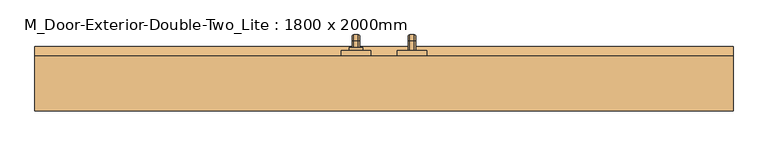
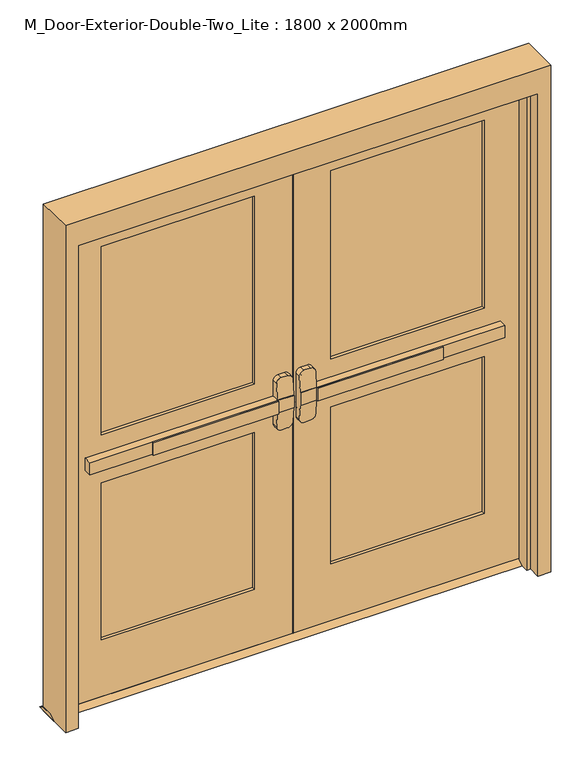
"""IFC4 building model written with IfcOpenShell, lengths in millimetres: door geometry, M_Door-Exterior-Double-Two_Lite : 1800 x 2000mm."""

from ifc_helpers import new_model, si_unit, point, frame, frame_2d, origin, place, context, project, spatial, polyline, circle_curve, ellipse_curve, trimmed, segment, composite_curve, outline, extrude, faceted_brep, source, transform, mapped, element, save
from ifc_brep_helpers import plane_surface, cylinder_surface, revolved_surface, advanced_brep


def m_door_exterior_double_two_lite_1800_x_2000mm_59306b6d(model_context):
    return source(origin(), model_context, "Body", "SolidModel", [
        extrude(outline(polyline([(-567.2, -1.75), (-567.2, 4.6), (-76.2, 4.6), (-76.2, -1.75), (-567.2, -1.75)])), frame((0.0, 0.0, 974.6), z_axis=(0.0, 0.0, 1.0), x_axis=(1.0, 0.0, 0.0)), (0.0, 0.0, 1.0), 50.8),
        advanced_brep(
        [(-12.7, 4.6, 1025.4), (-76.2, 4.6, 1025.4), (-812.7, 4.6, 1025.4), (-812.7, 4.6, 974.6), (-76.2, 4.6, 974.6), (-12.7, 4.6, 974.6), (-812.7, 36.35, 1025.4), (-76.2, 36.35, 1025.4), (-76.2, 36.35, 1088.9), (-57.15, 36.35, 1107.95), (-31.75, 36.35, 1107.95), (-12.7, 36.35, 1088.9), (-12.7, 36.35, 911.1), (-31.75, 36.35, 892.05), (-57.15, 36.35, 892.05), (-76.2, 36.35, 911.1), (-76.2, 36.35, 974.6), (-812.7, 36.35, 974.6), (-12.7, 7.7752467, 1025.4), (-76.2, 7.7752467, 1025.4), (-12.7, 7.7752467, 974.6), (-12.7, 12.7854269, 911.1), (-12.7, 12.7854269, 1088.9), (-76.2, 7.7752467, 974.6), (-76.2, 12.7854269, 1088.9), (-76.2, 12.7854269, 911.1), (-57.15, 14.288481, 1107.95), (-31.75, 14.288481, 1107.95), (-31.75, 14.288481, 892.05), (-57.15, 14.288481, 892.05)],
        [
            (0, 1),
            (1, 2),
            (2, 3),
            (3, 4),
            (4, 5),
            (5, 0),
            (6, 7),
            (7, 8),
            (8, 9, circle_curve(frame((-57.15, 36.35, 1088.9), z_axis=(0.0, 1.0, 0.0), x_axis=(-1.0, 0.0, 0.0)), 19.05)),
            (9, 10),
            (10, 11, circle_curve(frame((-31.75, 36.35, 1088.9), z_axis=(0.0, 1.0, 0.0), x_axis=(-1.0, 0.0, 0.0)), 19.05)),
            (11, 12),
            (12, 13, circle_curve(frame((-31.75, 36.35, 911.1), z_axis=(0.0, 1.0, 0.0), x_axis=(-1.0, 0.0, 0.0)), 19.05)),
            (13, 14),
            (14, 15, circle_curve(frame((-57.15, 36.35, 911.1), z_axis=(0.0, 1.0, 0.0), x_axis=(-1.0, 0.0, 0.0)), 19.05)),
            (15, 16),
            (16, 17),
            (17, 6),
            (0, 18),
            (18, 19),
            (19, 7),
            (6, 2),
            (5, 20),
            (20, 21),
            (21, 12),
            (11, 22),
            (22, 18),
            (16, 23),
            (23, 20),
            (3, 17),
            (19, 24),
            (24, 8),
            (15, 25),
            (25, 23),
            (9, 26),
            (26, 27),
            (27, 10),
            (13, 28),
            (28, 29),
            (29, 14),
            (29, 25, ellipse_curve(frame((-57.15, 12.7854269, 911.1), z_axis=(0.0, 0.9969018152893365, 0.07865602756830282), x_axis=(0.0, -0.07865602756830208, 0.9969018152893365)), 19.1092038, 19.05)),
            (24, 26, ellipse_curve(frame((-57.15, 12.7854269, 1088.9), z_axis=(0.0, 0.9969018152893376, -0.07865602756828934), x_axis=(0.0, -0.078656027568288, -0.9969018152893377)), 19.1092038, 19.05)),
            (27, 22, ellipse_curve(frame((-31.75, 12.7854269, 1088.9), z_axis=(0.0, 0.9969018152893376, -0.07865602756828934), x_axis=(0.0, -0.078656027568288, -0.9969018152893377)), 19.1092038, 19.05)),
            (21, 28, ellipse_curve(frame((-31.75, 12.7854269, 911.1), z_axis=(0.0, 0.9969018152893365, 0.07865602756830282), x_axis=(0.0, -0.07865602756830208, 0.9969018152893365)), 19.1092038, 19.05)),
        ],
        [
            plane_surface(frame((-12.7, 4.6, 1025.4), z_axis=(0.0, -1.0, 0.0), x_axis=(1.0, 0.0, 0.0))),
            plane_surface(frame((-12.7, 36.35, 1025.4), z_axis=(0.0, 1.0, 0.0), x_axis=(-1.0, 0.0, 0.0))),
            plane_surface(frame((-812.7, 4.6, 1025.4), z_axis=(0.0, 0.0, 1.0), x_axis=(0.0, 1.0, 0.0))),
            plane_surface(frame((-12.7, 4.6, 1025.4), z_axis=(1.0, 0.0, 0.0), x_axis=(0.0, 1.0, 0.0))),
            plane_surface(frame((-12.7, 4.6, 974.6), z_axis=(0.0, 0.0, -1.0), x_axis=(0.0, 1.0, 0.0))),
            plane_surface(frame((-812.7, 4.6, 974.6), z_axis=(-1.0, 0.0, 0.0), x_axis=(0.0, 1.0, 0.0))),
            plane_surface(frame((-76.2, 7.7752467, 911.1), z_axis=(-1.0, 0.0, 0.0), x_axis=(0.0, 1.0, 0.0))),
            plane_surface(frame((-57.15, 7.7752467, 1107.95), z_axis=(0.0, 0.0, 1.0), x_axis=(0.0, 1.0, 0.0))),
            plane_surface(frame((-31.75, 7.7752467, 892.05), z_axis=(0.0, 0.0, -1.0), x_axis=(0.0, 1.0, 0.0))),
            cylinder_surface(frame((-57.15, 36.35, 911.1), z_axis=(0.0, -1.0, 0.0), x_axis=(-1.0, 0.0, 0.0)), 19.05),
            cylinder_surface(frame((-57.15, 36.35, 1088.9), z_axis=(0.0, -1.0, 0.0), x_axis=(-1.0, 0.0, 0.0)), 19.05),
            cylinder_surface(frame((-31.75, 36.35, 1088.9), z_axis=(0.0, -1.0, 0.0), x_axis=(-1.0, 0.0, 0.0)), 19.05),
            cylinder_surface(frame((-31.75, 36.35, 911.1), z_axis=(0.0, -1.0, 0.0), x_axis=(-1.0, 0.0, 0.0)), 19.05),
            plane_surface(frame((-76.2, 7.7752467, 1025.4), z_axis=(0.0, -0.9969018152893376, 0.07865602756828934), x_axis=(1.0, 0.0, 0.0))),
            plane_surface(frame((-76.2, 14.288481, 892.05), z_axis=(0.0, -0.9969018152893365, -0.07865602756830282), x_axis=(1.0, 0.0, 0.0))),
        ],
        [
            (0, [[1, 2, 3, 4, 5, 6]]),
            (1, [[7, 8, 9, 10, 11, 12, 13, 14, 15, 16, 17, 18]]),
            (2, [[-2, -1, 19, 20, 21, -7, 22]]),
            (3, [[23, 24, 25, -12, 26, 27, -19, -6]]),
            (4, [[-17, 28, 29, -23, -5, -4, 30]]),
            (5, [[-22, -18, -30, -3]]),
            (6, [[-21, 31, 32, -8]]),
            (6, [[33, 34, -28, -16]]),
            (7, [[35, 36, 37, -10]]),
            (8, [[38, 39, 40, -14]]),
            (9, [[-40, 41, -33, -15]]),
            (10, [[-32, 42, -35, -9]]),
            (11, [[-37, 43, -26, -11]]),
            (12, [[-25, 44, -38, -13]]),
            (13, [[-27, -43, -36, -42, -31, -20]]),
            (14, [[-29, -34, -41, -39, -44, -24]]),
        ],
    ),
        extrude(outline(polyline([(81.35, 15.0), (106.75, 0.0), (10.95, 0.0), (36.35, 15.0), (81.35, 15.0)])), frame((-950.0, 0.0, 0.0), z_axis=(1.0, 0.0, 0.0), x_axis=(0.0, 1.0, 0.0)), (0.0, 0.0, 1.0), 1900.0),
        extrude(outline(polyline([(567.2, -1.75), (76.2, -1.75), (76.2, 4.6), (567.2, 4.6), (567.2, -1.75)])), frame((0.0, 0.0, 974.6), z_axis=(0.0, 0.0, 1.0), x_axis=(1.0, 0.0, 0.0)), (0.0, 0.0, 1.0), 50.8),
        advanced_brep(
        [(12.7, 4.6, 1025.4), (12.7, 4.6, 974.6), (76.2, 4.6, 974.6), (812.7, 4.6, 974.6), (812.7, 4.6, 1025.4), (76.2, 4.6, 1025.4), (812.7, 36.35, 1025.4), (812.7, 36.35, 974.6), (76.2, 36.35, 974.6), (76.2, 36.35, 911.1), (57.15, 36.35, 892.05), (31.75, 36.35, 892.05), (12.7, 36.35, 911.1), (12.7, 36.35, 1088.9), (31.75, 36.35, 1107.95), (57.15, 36.35, 1107.95), (76.2, 36.35, 1088.9), (76.2, 36.35, 1025.4), (76.2, 7.7752467, 1025.4), (12.7, 7.7752467, 1025.4), (12.7, 12.7854269, 1088.9), (12.7, 12.7854269, 911.1), (12.7, 7.7752467, 974.6), (76.2, 7.7752467, 974.6), (76.2, 12.7854269, 911.1), (76.2, 12.7854269, 1088.9), (31.75, 14.288481, 1107.95), (57.15, 14.288481, 1107.95), (57.15, 14.288481, 892.05), (31.75, 14.288481, 892.05)],
        [
            (0, 1),
            (1, 2),
            (2, 3),
            (3, 4),
            (4, 5),
            (5, 0),
            (6, 7),
            (7, 8),
            (8, 9),
            (9, 10, circle_curve(frame((57.15, 36.35, 911.1), z_axis=(0.0, 1.0, 0.0), x_axis=(1.0, 0.0, 0.0)), 19.05)),
            (10, 11),
            (11, 12, circle_curve(frame((31.75, 36.35, 911.1), z_axis=(0.0, 1.0, 0.0), x_axis=(1.0, 0.0, 0.0)), 19.05)),
            (12, 13),
            (13, 14, circle_curve(frame((31.75, 36.35, 1088.9), z_axis=(0.0, 1.0, 0.0), x_axis=(1.0, 0.0, 0.0)), 19.05)),
            (14, 15),
            (15, 16, circle_curve(frame((57.15, 36.35, 1088.9), z_axis=(0.0, 1.0, 0.0), x_axis=(1.0, 0.0, 0.0)), 19.05)),
            (16, 17),
            (17, 6),
            (4, 6),
            (17, 18),
            (18, 19),
            (19, 0),
            (19, 20),
            (20, 13),
            (12, 21),
            (21, 22),
            (22, 1),
            (7, 3),
            (22, 23),
            (23, 8),
            (23, 24),
            (24, 9),
            (16, 25),
            (25, 18),
            (14, 26),
            (26, 27),
            (27, 15),
            (10, 28),
            (28, 29),
            (29, 11),
            (24, 28, ellipse_curve(frame((57.15, 12.7854269, 911.1), z_axis=(0.0, 0.9969018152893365, 0.07865602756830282), x_axis=(0.0, -0.07865602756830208, 0.9969018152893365)), 19.1092038, 19.05)),
            (27, 25, ellipse_curve(frame((57.15, 12.7854269, 1088.9), z_axis=(0.0, 0.9969018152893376, -0.07865602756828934), x_axis=(0.0, -0.078656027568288, -0.9969018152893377)), 19.1092038, 19.05)),
            (20, 26, ellipse_curve(frame((31.75, 12.7854269, 1088.9), z_axis=(0.0, 0.9969018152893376, -0.07865602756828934), x_axis=(0.0, -0.078656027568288, -0.9969018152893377)), 19.1092038, 19.05)),
            (29, 21, ellipse_curve(frame((31.75, 12.7854269, 911.1), z_axis=(0.0, 0.9969018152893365, 0.07865602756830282), x_axis=(0.0, -0.07865602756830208, 0.9969018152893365)), 19.1092038, 19.05)),
        ],
        [
            plane_surface(frame((12.7, 4.6, 1025.4), z_axis=(0.0, -1.0, 0.0), x_axis=(-1.0, 0.0, 0.0))),
            plane_surface(frame((12.7, 36.35, 1025.4), z_axis=(0.0, 1.0, 0.0), x_axis=(1.0, 0.0, 0.0))),
            plane_surface(frame((812.7, 4.6, 1025.4), z_axis=(0.0, 0.0, 1.0), x_axis=(0.0, 1.0, 0.0))),
            plane_surface(frame((12.7, 4.6, 1025.4), z_axis=(-1.0, 0.0, 0.0), x_axis=(0.0, 1.0, 0.0))),
            plane_surface(frame((12.7, 4.6, 974.6), z_axis=(0.0, 0.0, -1.0), x_axis=(0.0, 1.0, 0.0))),
            plane_surface(frame((812.7, 4.6, 974.6), z_axis=(1.0, 0.0, 0.0), x_axis=(0.0, 1.0, 0.0))),
            plane_surface(frame((76.2, 7.7752467, 911.1), z_axis=(1.0, 0.0, 0.0), x_axis=(0.0, 1.0, 0.0))),
            plane_surface(frame((57.15, 7.7752467, 1107.95), z_axis=(0.0, 0.0, 1.0), x_axis=(0.0, 1.0, 0.0))),
            plane_surface(frame((31.75, 7.7752467, 892.05), z_axis=(0.0, 0.0, -1.0), x_axis=(0.0, 1.0, 0.0))),
            cylinder_surface(frame((57.15, 36.35, 911.1), z_axis=(0.0, -1.0, 0.0), x_axis=(1.0, 0.0, 0.0)), 19.05),
            cylinder_surface(frame((57.15, 36.35, 1088.9), z_axis=(0.0, -1.0, 0.0), x_axis=(1.0, 0.0, 0.0)), 19.05),
            cylinder_surface(frame((31.75, 36.35, 1088.9), z_axis=(0.0, -1.0, 0.0), x_axis=(1.0, 0.0, 0.0)), 19.05),
            cylinder_surface(frame((31.75, 36.35, 911.1), z_axis=(0.0, -1.0, 0.0), x_axis=(1.0, 0.0, 0.0)), 19.05),
            plane_surface(frame((76.2, 7.7752467, 1025.4), z_axis=(0.0, -0.9969018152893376, 0.07865602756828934), x_axis=(-1.0, 0.0, 0.0))),
            plane_surface(frame((76.2, 14.288481, 892.05), z_axis=(0.0, -0.9969018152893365, -0.07865602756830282), x_axis=(-1.0, 0.0, 0.0))),
        ],
        [
            (0, [[1, 2, 3, 4, 5, 6]]),
            (1, [[7, 8, 9, 10, 11, 12, 13, 14, 15, 16, 17, 18]]),
            (2, [[19, -18, 20, 21, 22, -6, -5]]),
            (3, [[-1, -22, 23, 24, -13, 25, 26, 27]]),
            (4, [[28, -3, -2, -27, 29, 30, -8]]),
            (5, [[-4, -28, -7, -19]]),
            (6, [[-9, -30, 31, 32]]),
            (6, [[-17, 33, 34, -20]]),
            (7, [[-15, 35, 36, 37]]),
            (8, [[-11, 38, 39, 40]]),
            (9, [[-10, -32, 41, -38]]),
            (10, [[-16, -37, 42, -33]]),
            (11, [[-14, -24, 43, -35]]),
            (12, [[-12, -40, 44, -25]]),
            (13, [[-21, -34, -42, -36, -43, -23]]),
            (14, [[-26, -44, -39, -41, -31, -29]]),
        ],
    ),
        advanced_brep(
        [(66.2, 96.35, 1001.190625), (66.2, 96.35, 998.809375), (69.771875, 96.35, 995.2375), (82.6284594, 96.35, 995.2375), (86.2, 96.35, 998.8090406), (86.2, 96.35, 1001.190625), (82.628125, 96.35, 1004.7625), (69.771875, 96.35, 1004.7625), (66.2, 96.35, 874.609375), (69.771875, 96.35, 871.0375), (82.628125, 96.35, 871.0375), (86.2, 96.35, 874.609375), (86.2, 96.35, 876.9909594), (82.6284594, 96.35, 880.5625), (69.771875, 96.35, 880.5625), (66.2, 96.35, 876.990625), (66.2, 121.75, 1001.190625), (66.2, 135.640625, 987.3), (66.2, 135.640625, 888.5), (66.2, 121.75, 874.609375), (66.2, 121.75, 876.990625), (66.2, 133.259375, 888.5), (66.2, 133.259375, 987.3), (66.2, 121.75, 998.809375), (69.771875, 121.75, 995.2375), (82.6284594, 121.75, 995.2375), (86.2, 121.75, 998.8090406), (86.2, 133.2590406, 987.3), (86.2, 133.2590406, 888.5), (86.2, 121.75, 876.9909594), (86.2, 121.75, 874.609375), (86.2, 135.640625, 888.5), (86.2, 135.640625, 987.3), (86.2, 121.75, 1001.190625), (82.628125, 121.75, 1004.7625), (69.771875, 121.75, 1004.7625), (69.771875, 129.6875, 987.3), (82.6284594, 129.6875, 987.3), (82.628125, 139.2125, 987.3), (69.771875, 139.2125, 987.3), (69.771875, 129.6875, 888.5), (82.6284594, 129.6875, 888.5), (82.628125, 139.2125, 888.5), (69.771875, 139.2125, 888.5), (69.771875, 121.75, 880.5625), (82.6284594, 121.75, 880.5625), (82.628125, 121.75, 871.0375), (69.771875, 121.75, 871.0375)],
        [
            (0, 1),
            (1, 2, circle_curve(frame((69.771875, 96.35, 998.809375), z_axis=(0.0, -1.0, 0.0), x_axis=(0.0, 0.0, 1.0)), 3.571875)),
            (2, 3),
            (3, 4, circle_curve(frame((82.6284594, 96.35, 998.8090406), z_axis=(0.0, -1.0, 0.0), x_axis=(0.0, 0.0, 1.0)), 3.5715406)),
            (4, 5),
            (5, 6, circle_curve(frame((82.628125, 96.35, 1001.190625), z_axis=(0.0, -1.0, 0.0), x_axis=(0.0, 0.0, 1.0)), 3.571875)),
            (6, 7),
            (7, 0, circle_curve(frame((69.771875, 96.35, 1001.190625), z_axis=(0.0, -1.0, 0.0), x_axis=(0.0, 0.0, 1.0)), 3.571875)),
            (8, 9, circle_curve(frame((69.771875, 96.35, 874.609375), z_axis=(0.0, -1.0, 0.0), x_axis=(0.0, 0.0, -1.0)), 3.571875)),
            (9, 10),
            (10, 11, circle_curve(frame((82.628125, 96.35, 874.609375), z_axis=(0.0, -1.0, 0.0), x_axis=(0.0, 0.0, -1.0)), 3.571875)),
            (11, 12),
            (12, 13, circle_curve(frame((82.6284594, 96.35, 876.9909594), z_axis=(0.0, -1.0, 0.0), x_axis=(0.0, 0.0, -1.0)), 3.5715406)),
            (13, 14),
            (14, 15, circle_curve(frame((69.771875, 96.35, 876.990625), z_axis=(0.0, -1.0, 0.0), x_axis=(0.0, 0.0, -1.0)), 3.571875)),
            (15, 8),
            (0, 16),
            (16, 17, circle_curve(frame((66.2, 121.75, 987.3), z_axis=(-1.0, 0.0, 0.0), x_axis=(0.0, 0.0, 1.0)), 13.890625)),
            (17, 18),
            (18, 19, circle_curve(frame((66.2, 121.75, 888.5), z_axis=(-1.0, 0.0, 0.0), x_axis=(0.0, 1.0, 0.0)), 13.890625)),
            (19, 8),
            (15, 20),
            (20, 21, circle_curve(frame((66.2, 121.75, 888.5), z_axis=(1.0, 0.0, 0.0), x_axis=(0.0, 1.0, 0.0)), 11.509375)),
            (21, 22),
            (22, 23, circle_curve(frame((66.2, 121.75, 987.3), z_axis=(1.0, 0.0, 0.0), x_axis=(0.0, 0.0, 1.0)), 11.509375)),
            (23, 1),
            (23, 24, circle_curve(frame((69.771875, 121.75, 998.809375), z_axis=(0.0, -1.0, 0.0), x_axis=(0.0, 0.0, 1.0)), 3.571875)),
            (24, 2),
            (24, 25),
            (25, 3),
            (25, 26, circle_curve(frame((82.6284594, 121.75, 998.8090406), z_axis=(0.0, -1.0, 0.0), x_axis=(0.0, 0.0, 1.0)), 3.5715406)),
            (26, 4),
            (26, 27, circle_curve(frame((86.2, 121.75, 987.3), z_axis=(-1.0, 0.0, 0.0), x_axis=(0.0, 0.0, 1.0)), 11.5090406)),
            (27, 28),
            (28, 29, circle_curve(frame((86.2, 121.75, 888.5), z_axis=(-1.0, 0.0, 0.0), x_axis=(0.0, 1.0, 0.0)), 11.5090406)),
            (29, 12),
            (11, 30),
            (30, 31, circle_curve(frame((86.2, 121.75, 888.5), z_axis=(1.0, 0.0, 0.0), x_axis=(0.0, 1.0, 0.0)), 13.890625)),
            (31, 32),
            (32, 33, circle_curve(frame((86.2, 121.75, 987.3), z_axis=(1.0, 0.0, 0.0), x_axis=(0.0, 0.0, 1.0)), 13.890625)),
            (33, 5),
            (33, 34, circle_curve(frame((82.628125, 121.75, 1001.190625), z_axis=(0.0, -1.0, 0.0), x_axis=(0.0, 0.0, 1.0)), 3.571875)),
            (34, 6),
            (34, 35),
            (35, 7),
            (35, 16, circle_curve(frame((69.771875, 121.75, 1001.190625), z_axis=(0.0, -1.0, 0.0), x_axis=(0.0, 0.0, 1.0)), 3.571875)),
            (36, 24, circle_curve(frame((69.771875, 121.75, 987.3), z_axis=(1.0, 0.0, 0.0), x_axis=(0.0, 0.0, 1.0)), 7.9375)),
            (22, 36, circle_curve(frame((69.771875, 133.259375, 987.3), z_axis=(0.0, 0.0, 1.0), x_axis=(0.0, 1.0, 0.0)), 3.571875)),
            (37, 25, circle_curve(frame((82.6284594, 121.75, 987.3), z_axis=(1.0, 0.0, 0.0), x_axis=(0.0, 0.0, 1.0)), 7.9375)),
            (36, 37),
            (37, 27, circle_curve(frame((82.6284594, 133.2590406, 987.3), z_axis=(0.0, 0.0, 1.0), x_axis=(0.0, 1.0, 0.0)), 3.5715406)),
            (38, 34, circle_curve(frame((82.628125, 121.75, 987.3), z_axis=(1.0, 0.0, 0.0), x_axis=(0.0, 0.0, 1.0)), 17.4625)),
            (32, 38, circle_curve(frame((82.628125, 135.640625, 987.3), z_axis=(0.0, 0.0, 1.0), x_axis=(0.0, 1.0, 0.0)), 3.571875)),
            (39, 35, circle_curve(frame((69.771875, 121.75, 987.3), z_axis=(1.0, 0.0, 0.0), x_axis=(0.0, 0.0, 1.0)), 17.4625)),
            (38, 39),
            (39, 17, circle_curve(frame((69.771875, 135.640625, 987.3), z_axis=(0.0, 0.0, 1.0), x_axis=(0.0, 1.0, 0.0)), 3.571875)),
            (21, 40, circle_curve(frame((69.771875, 133.259375, 888.5), z_axis=(0.0, 0.0, 1.0), x_axis=(0.0, 1.0, 0.0)), 3.571875)),
            (40, 36),
            (40, 41),
            (41, 37),
            (41, 28, circle_curve(frame((82.6284594, 133.2590406, 888.5), z_axis=(0.0, 0.0, 1.0), x_axis=(0.0, 1.0, 0.0)), 3.5715406)),
            (31, 42, circle_curve(frame((82.628125, 135.640625, 888.5), z_axis=(0.0, 0.0, 1.0), x_axis=(0.0, 1.0, 0.0)), 3.571875)),
            (42, 38),
            (42, 43),
            (43, 39),
            (43, 18, circle_curve(frame((69.771875, 135.640625, 888.5), z_axis=(0.0, 0.0, 1.0), x_axis=(0.0, 1.0, 0.0)), 3.571875)),
            (44, 40, circle_curve(frame((69.771875, 121.75, 888.5), z_axis=(1.0, 0.0, 0.0), x_axis=(0.0, 1.0, 0.0)), 7.9375)),
            (20, 44, circle_curve(frame((69.771875, 121.75, 876.990625), z_axis=(0.0, 1.0, 0.0), x_axis=(0.0, 0.0, -1.0)), 3.571875)),
            (45, 41, circle_curve(frame((82.6284594, 121.75, 888.5), z_axis=(1.0, 0.0, 0.0), x_axis=(0.0, 1.0, 0.0)), 7.9375)),
            (44, 45),
            (45, 29, circle_curve(frame((82.6284594, 121.75, 876.9909594), z_axis=(0.0, 1.0, 0.0), x_axis=(0.0, 0.0, -1.0)), 3.5715406)),
            (46, 42, circle_curve(frame((82.628125, 121.75, 888.5), z_axis=(1.0, 0.0, 0.0), x_axis=(0.0, 1.0, 0.0)), 17.4625)),
            (30, 46, circle_curve(frame((82.628125, 121.75, 874.609375), z_axis=(0.0, 1.0, 0.0), x_axis=(0.0, 0.0, -1.0)), 3.571875)),
            (47, 43, circle_curve(frame((69.771875, 121.75, 888.5), z_axis=(1.0, 0.0, 0.0), x_axis=(0.0, 1.0, 0.0)), 17.4625)),
            (46, 47),
            (47, 19, circle_curve(frame((69.771875, 121.75, 874.609375), z_axis=(0.0, 1.0, 0.0), x_axis=(0.0, 0.0, -1.0)), 3.571875)),
            (14, 44),
            (13, 45),
            (10, 46),
            (9, 47),
        ],
        [
            plane_surface(frame((76.2, 96.35, 1000.0), z_axis=(0.0, -1.0, 0.0), x_axis=(1.0, 0.0, 0.0))),
            plane_surface(frame((76.2, 96.35, 875.8), z_axis=(0.0, -1.0, 0.0), x_axis=(1.0, 0.0, 0.0))),
            plane_surface(frame((66.2, 96.35, 1001.190625), z_axis=(-1.0, 0.0, 0.0), x_axis=(0.0, 1.0, 0.0))),
            cylinder_surface(frame((69.771875, 96.35, 998.809375), z_axis=(0.0, -1.0, 0.0), x_axis=(0.0, 0.0, 1.0)), 3.571875),
            plane_surface(frame((69.771875, 96.35, 995.2375), z_axis=(0.0, 0.0, -1.0), x_axis=(0.0, 1.0, 0.0))),
            cylinder_surface(frame((82.6284594, 96.35, 998.8090406), z_axis=(0.0, -1.0, 0.0), x_axis=(0.0, 0.0, 1.0)), 3.5715406),
            plane_surface(frame((86.2, 96.35, 998.8090406), z_axis=(1.0, 0.0, 0.0), x_axis=(0.0, 1.0, 0.0))),
            cylinder_surface(frame((82.628125, 96.35, 1001.190625), z_axis=(0.0, -1.0, 0.0), x_axis=(0.0, 0.0, 1.0)), 3.571875),
            plane_surface(frame((82.628125, 96.35, 1004.7625), z_axis=(0.0, 0.0, 1.0), x_axis=(0.0, 1.0, 0.0))),
            cylinder_surface(frame((69.771875, 96.35, 1001.190625), z_axis=(0.0, -1.0, 0.0), x_axis=(0.0, 0.0, 1.0)), 3.571875),
            revolved_surface(trimmed(ellipse_curve(frame((69.771875, 121.75, 998.809375), z_axis=(0.0, -1.0, 0.0), x_axis=(0.0, 0.0, 1.0)), 3.571875, 3.571875), [point((66.2, 121.75, 998.809375))], [point((69.771875, 121.75, 995.2375))], True, "CARTESIAN"), (76.2, 121.75, 987.3), (-1.0, 0.0, 0.0)),
            revolved_surface(polyline([(69.771875, 121.75, 995.2375), (82.6284594, 121.75, 995.2375)]), (76.2, 121.75, 987.3), (-1.0, 0.0, 0.0)),
            revolved_surface(trimmed(ellipse_curve(frame((82.6284594, 121.75, 998.8090406), z_axis=(0.0, -1.0, 0.0), x_axis=(0.0, 0.0, 1.0)), 3.5715406, 3.5715406), [point((82.6284594, 121.75, 995.2375))], [point((86.2, 121.75, 998.8090406))], True, "CARTESIAN"), (76.2, 121.75, 987.3), (-1.0, 0.0, 0.0)),
            revolved_surface(trimmed(ellipse_curve(frame((82.628125, 121.75, 1001.190625), z_axis=(0.0, -1.0, 0.0), x_axis=(0.0, 0.0, 1.0)), 3.571875, 3.571875), [point((86.2, 121.75, 1001.190625))], [point((82.628125, 121.75, 1004.7625))], True, "CARTESIAN"), (76.2, 121.75, 987.3), (-1.0, 0.0, 0.0)),
            cylinder_surface(frame((76.2, 121.75, 987.3), z_axis=(-1.0, 0.0, 0.0), x_axis=(0.0, 0.0, 1.0)), 17.4625),
            revolved_surface(trimmed(ellipse_curve(frame((69.771875, 121.75, 1001.190625), z_axis=(0.0, -1.0, 0.0), x_axis=(0.0, 0.0, 1.0)), 3.571875, 3.571875), [point((69.771875, 121.75, 1004.7625))], [point((66.2, 121.75, 1001.190625))], True, "CARTESIAN"), (76.2, 121.75, 987.3), (-1.0, 0.0, 0.0)),
            cylinder_surface(frame((69.771875, 133.259375, 987.3), z_axis=(0.0, 0.0, 1.0), x_axis=(0.0, 1.0, 0.0)), 3.571875),
            plane_surface(frame((69.771875, 129.6875, 987.3), z_axis=(0.0, -1.0, 0.0), x_axis=(0.0, 0.0, -1.0))),
            cylinder_surface(frame((82.6284594, 133.2590406, 987.3), z_axis=(0.0, 0.0, 1.0), x_axis=(0.0, 1.0, 0.0)), 3.5715406),
            cylinder_surface(frame((82.628125, 135.640625, 987.3), z_axis=(0.0, 0.0, 1.0), x_axis=(0.0, 1.0, 0.0)), 3.571875),
            plane_surface(frame((82.628125, 139.2125, 987.3), z_axis=(0.0, 1.0, 0.0), x_axis=(0.0, 0.0, -1.0))),
            cylinder_surface(frame((69.771875, 135.640625, 987.3), z_axis=(0.0, 0.0, 1.0), x_axis=(0.0, 1.0, 0.0)), 3.571875),
            revolved_surface(trimmed(ellipse_curve(frame((69.771875, 133.259375, 888.5), z_axis=(0.0, 0.0, 1.0), x_axis=(0.0, 1.0, 0.0)), 3.571875, 3.571875), [point((66.2, 133.259375, 888.5))], [point((69.771875, 129.6875, 888.5))], True, "CARTESIAN"), (76.2, 121.75, 888.5), (-1.0, 0.0, 0.0)),
            revolved_surface(polyline([(69.771875, 129.6875, 888.5), (82.6284594, 129.6875, 888.5)]), (76.2, 121.75, 888.5), (-1.0, 0.0, 0.0)),
            revolved_surface(trimmed(ellipse_curve(frame((82.6284594, 133.2590406, 888.5), z_axis=(0.0, 0.0, 1.0), x_axis=(0.0, 1.0, 0.0)), 3.5715406, 3.5715406), [point((82.6284594, 129.6875, 888.5))], [point((86.2, 133.2590406, 888.5))], True, "CARTESIAN"), (76.2, 121.75, 888.5), (-1.0, 0.0, 0.0)),
            revolved_surface(trimmed(ellipse_curve(frame((82.628125, 135.640625, 888.5), z_axis=(0.0, 0.0, 1.0), x_axis=(0.0, 1.0, 0.0)), 3.571875, 3.571875), [point((86.2, 135.640625, 888.5))], [point((82.628125, 139.2125, 888.5))], True, "CARTESIAN"), (76.2, 121.75, 888.5), (-1.0, 0.0, 0.0)),
            cylinder_surface(frame((76.2, 121.75, 888.5), z_axis=(-1.0, 0.0, 0.0), x_axis=(0.0, 1.0, 0.0)), 17.4625),
            revolved_surface(trimmed(ellipse_curve(frame((69.771875, 135.640625, 888.5), z_axis=(0.0, 0.0, 1.0), x_axis=(0.0, 1.0, 0.0)), 3.571875, 3.571875), [point((69.771875, 139.2125, 888.5))], [point((66.2, 135.640625, 888.5))], True, "CARTESIAN"), (76.2, 121.75, 888.5), (-1.0, 0.0, 0.0)),
            cylinder_surface(frame((69.771875, 121.75, 876.990625), z_axis=(0.0, 1.0, 0.0), x_axis=(0.0, 0.0, -1.0)), 3.571875),
            plane_surface(frame((69.771875, 121.75, 880.5625), z_axis=(0.0, 0.0, 1.0), x_axis=(0.0, -1.0, 0.0))),
            cylinder_surface(frame((82.6284594, 121.75, 876.9909594), z_axis=(0.0, 1.0, 0.0), x_axis=(0.0, 0.0, -1.0)), 3.5715406),
            cylinder_surface(frame((82.628125, 121.75, 874.609375), z_axis=(0.0, 1.0, 0.0), x_axis=(0.0, 0.0, -1.0)), 3.571875),
            plane_surface(frame((82.628125, 121.75, 871.0375), z_axis=(0.0, 0.0, -1.0), x_axis=(0.0, -1.0, 0.0))),
            cylinder_surface(frame((69.771875, 121.75, 874.609375), z_axis=(0.0, 1.0, 0.0), x_axis=(0.0, 0.0, -1.0)), 3.571875),
        ],
        [
            (0, [[1, 2, 3, 4, 5, 6, 7, 8]]),
            (1, [[9, 10, 11, 12, 13, 14, 15, 16]]),
            (2, [[-1, 17, 18, 19, 20, 21, -16, 22, 23, 24, 25, 26]]),
            (3, [[-2, -26, 27, 28]]),
            (4, [[-3, -28, 29, 30]]),
            (5, [[-4, -30, 31, 32]]),
            (6, [[-5, -32, 33, 34, 35, 36, -12, 37, 38, 39, 40, 41]]),
            (7, [[-6, -41, 42, 43]]),
            (8, [[-7, -43, 44, 45]]),
            (9, [[-8, -45, 46, -17]]),
            (10, [[47, -27, -25, 48]]),
            (11, [[49, -29, -47, 50]]),
            (12, [[-33, -31, -49, 51]]),
            (13, [[52, -42, -40, 53]]),
            (14, [[54, -44, -52, 55]]),
            (15, [[-18, -46, -54, 56]]),
            (16, [[-48, -24, 57, 58]]),
            (17, [[-50, -58, 59, 60]]),
            (18, [[-51, -60, 61, -34]]),
            (19, [[-53, -39, 62, 63]]),
            (20, [[-55, -63, 64, 65]]),
            (21, [[-56, -65, 66, -19]]),
            (22, [[67, -57, -23, 68]]),
            (23, [[69, -59, -67, 70]]),
            (24, [[-35, -61, -69, 71]]),
            (25, [[72, -62, -38, 73]]),
            (26, [[74, -64, -72, 75]]),
            (27, [[-20, -66, -74, 76]]),
            (28, [[-68, -22, -15, 77]]),
            (29, [[-70, -77, -14, 78]]),
            (30, [[-71, -78, -13, -36]]),
            (31, [[-73, -37, -11, 79]]),
            (32, [[-75, -79, -10, 80]]),
            (33, [[-76, -80, -9, -21]]),
        ],
    ),
        extrude(outline(composite_curve([segment(trimmed(circle_curve(frame_2d((1094.2338574, 76.2)), 90.1286291), [point((1175.0, 116.2))], [point((1175.0, 36.2))], False, "CARTESIAN"), True, "CONTINUOUS"), segment(polyline([(1175.0, 36.2), (825.0, 36.2)]), True, "CONTINUOUS"), segment(trimmed(circle_curve(frame_2d((905.7661426, 76.2)), 90.1286291), [point((825.0, 36.2))], [point((825.0, 116.2))], False, "CARTESIAN"), True, "CONTINUOUS"), segment(polyline([(825.0, 116.2), (1175.0, 116.2)]), True, "CONTINUOUS")], self_intersect=False)), frame((0.0, 81.35, 0.0), z_axis=(0.0, 1.0, 0.0), x_axis=(0.0, 0.0, 1.0)), (0.0, 0.0, 1.0), 15.0),
        advanced_brep(
        [(-86.2, 96.35, 1001.190625), (-86.2, 96.35, 998.809375), (-82.628125, 96.35, 995.2375), (-69.7715406, 96.35, 995.2375), (-66.2, 96.35, 998.8090406), (-66.2, 96.35, 1001.190625), (-69.771875, 96.35, 1004.7625), (-82.628125, 96.35, 1004.7625), (-86.2, 96.35, 874.609375), (-82.628125, 96.35, 871.0375), (-69.771875, 96.35, 871.0375), (-66.2, 96.35, 874.609375), (-66.2, 96.35, 876.9909594), (-69.7715406, 96.35, 880.5625), (-82.628125, 96.35, 880.5625), (-86.2, 96.35, 876.990625), (-86.2, 121.75, 1001.190625), (-86.2, 135.640625, 987.3), (-86.2, 135.640625, 888.5), (-86.2, 121.75, 874.609375), (-86.2, 121.75, 876.990625), (-86.2, 133.259375, 888.5), (-86.2, 133.259375, 987.3), (-86.2, 121.75, 998.809375), (-82.628125, 121.75, 995.2375), (-69.7715406, 121.75, 995.2375), (-66.2, 121.75, 998.8090406), (-66.2, 133.2590406, 987.3), (-66.2, 133.2590406, 888.5), (-66.2, 121.75, 876.9909594), (-66.2, 121.75, 874.609375), (-66.2, 135.640625, 888.5), (-66.2, 135.640625, 987.3), (-66.2, 121.75, 1001.190625), (-69.771875, 121.75, 1004.7625), (-82.628125, 121.75, 1004.7625), (-82.628125, 129.6875, 987.3), (-69.7715406, 129.6875, 987.3), (-69.771875, 139.2125, 987.3), (-82.628125, 139.2125, 987.3), (-82.628125, 129.6875, 888.5), (-69.7715406, 129.6875, 888.5), (-69.771875, 139.2125, 888.5), (-82.628125, 139.2125, 888.5), (-82.628125, 121.75, 880.5625), (-69.7715406, 121.75, 880.5625), (-69.771875, 121.75, 871.0375), (-82.628125, 121.75, 871.0375)],
        [
            (0, 1),
            (1, 2, circle_curve(frame((-82.628125, 96.35, 998.809375), z_axis=(0.0, -1.0, 0.0), x_axis=(0.0, 0.0, 1.0)), 3.571875)),
            (2, 3),
            (3, 4, circle_curve(frame((-69.7715406, 96.35, 998.8090406), z_axis=(0.0, -1.0, 0.0), x_axis=(0.0, 0.0, 1.0)), 3.5715406)),
            (4, 5),
            (5, 6, circle_curve(frame((-69.771875, 96.35, 1001.190625), z_axis=(0.0, -1.0, 0.0), x_axis=(0.0, 0.0, 1.0)), 3.571875)),
            (6, 7),
            (7, 0, circle_curve(frame((-82.628125, 96.35, 1001.190625), z_axis=(0.0, -1.0, 0.0), x_axis=(0.0, 0.0, 1.0)), 3.571875)),
            (8, 9, circle_curve(frame((-82.628125, 96.35, 874.609375), z_axis=(0.0, -1.0, 0.0), x_axis=(0.0, 0.0, -1.0)), 3.571875)),
            (9, 10),
            (10, 11, circle_curve(frame((-69.771875, 96.35, 874.609375), z_axis=(0.0, -1.0, 0.0), x_axis=(0.0, 0.0, -1.0)), 3.571875)),
            (11, 12),
            (12, 13, circle_curve(frame((-69.7715406, 96.35, 876.9909594), z_axis=(0.0, -1.0, 0.0), x_axis=(0.0, 0.0, -1.0)), 3.5715406)),
            (13, 14),
            (14, 15, circle_curve(frame((-82.628125, 96.35, 876.990625), z_axis=(0.0, -1.0, 0.0), x_axis=(0.0, 0.0, -1.0)), 3.571875)),
            (15, 8),
            (0, 16),
            (16, 17, circle_curve(frame((-86.2, 121.75, 987.3), z_axis=(-1.0, 0.0, 0.0), x_axis=(0.0, 0.0, 1.0)), 13.890625)),
            (17, 18),
            (18, 19, circle_curve(frame((-86.2, 121.75, 888.5), z_axis=(-1.0, 0.0, 0.0), x_axis=(0.0, 1.0, 0.0)), 13.890625)),
            (19, 8),
            (15, 20),
            (20, 21, circle_curve(frame((-86.2, 121.75, 888.5), z_axis=(1.0, 0.0, 0.0), x_axis=(0.0, 1.0, 0.0)), 11.509375)),
            (21, 22),
            (22, 23, circle_curve(frame((-86.2, 121.75, 987.3), z_axis=(1.0, 0.0, 0.0), x_axis=(0.0, 0.0, 1.0)), 11.509375)),
            (23, 1),
            (23, 24, circle_curve(frame((-82.628125, 121.75, 998.809375), z_axis=(0.0, -1.0, 0.0), x_axis=(0.0, 0.0, 1.0)), 3.571875)),
            (24, 2),
            (24, 25),
            (25, 3),
            (25, 26, circle_curve(frame((-69.7715406, 121.75, 998.8090406), z_axis=(0.0, -1.0, 0.0), x_axis=(0.0, 0.0, 1.0)), 3.5715406)),
            (26, 4),
            (26, 27, circle_curve(frame((-66.2, 121.75, 987.3), z_axis=(-1.0, 0.0, 0.0), x_axis=(0.0, 0.0, 1.0)), 11.5090406)),
            (27, 28),
            (28, 29, circle_curve(frame((-66.2, 121.75, 888.5), z_axis=(-1.0, 0.0, 0.0), x_axis=(0.0, 1.0, 0.0)), 11.5090406)),
            (29, 12),
            (11, 30),
            (30, 31, circle_curve(frame((-66.2, 121.75, 888.5), z_axis=(1.0, 0.0, 0.0), x_axis=(0.0, 1.0, 0.0)), 13.890625)),
            (31, 32),
            (32, 33, circle_curve(frame((-66.2, 121.75, 987.3), z_axis=(1.0, 0.0, 0.0), x_axis=(0.0, 0.0, 1.0)), 13.890625)),
            (33, 5),
            (33, 34, circle_curve(frame((-69.771875, 121.75, 1001.190625), z_axis=(0.0, -1.0, 0.0), x_axis=(0.0, 0.0, 1.0)), 3.571875)),
            (34, 6),
            (34, 35),
            (35, 7),
            (35, 16, circle_curve(frame((-82.628125, 121.75, 1001.190625), z_axis=(0.0, -1.0, 0.0), x_axis=(0.0, 0.0, 1.0)), 3.571875)),
            (36, 24, circle_curve(frame((-82.628125, 121.75, 987.3), z_axis=(1.0, 0.0, 0.0), x_axis=(0.0, 0.0, 1.0)), 7.9375)),
            (22, 36, circle_curve(frame((-82.628125, 133.259375, 987.3), z_axis=(0.0, 0.0, 1.0), x_axis=(0.0, 1.0, 0.0)), 3.571875)),
            (37, 25, circle_curve(frame((-69.7715406, 121.75, 987.3), z_axis=(1.0, 0.0, 0.0), x_axis=(0.0, 0.0, 1.0)), 7.9375)),
            (36, 37),
            (37, 27, circle_curve(frame((-69.7715406, 133.2590406, 987.3), z_axis=(0.0, 0.0, 1.0), x_axis=(0.0, 1.0, 0.0)), 3.5715406)),
            (38, 34, circle_curve(frame((-69.771875, 121.75, 987.3), z_axis=(1.0, 0.0, 0.0), x_axis=(0.0, 0.0, 1.0)), 17.4625)),
            (32, 38, circle_curve(frame((-69.771875, 135.640625, 987.3), z_axis=(0.0, 0.0, 1.0), x_axis=(0.0, 1.0, 0.0)), 3.571875)),
            (39, 35, circle_curve(frame((-82.628125, 121.75, 987.3), z_axis=(1.0, 0.0, 0.0), x_axis=(0.0, 0.0, 1.0)), 17.4625)),
            (38, 39),
            (39, 17, circle_curve(frame((-82.628125, 135.640625, 987.3), z_axis=(0.0, 0.0, 1.0), x_axis=(0.0, 1.0, 0.0)), 3.571875)),
            (21, 40, circle_curve(frame((-82.628125, 133.259375, 888.5), z_axis=(0.0, 0.0, 1.0), x_axis=(0.0, 1.0, 0.0)), 3.571875)),
            (40, 36),
            (40, 41),
            (41, 37),
            (41, 28, circle_curve(frame((-69.7715406, 133.2590406, 888.5), z_axis=(0.0, 0.0, 1.0), x_axis=(0.0, 1.0, 0.0)), 3.5715406)),
            (31, 42, circle_curve(frame((-69.771875, 135.640625, 888.5), z_axis=(0.0, 0.0, 1.0), x_axis=(0.0, 1.0, 0.0)), 3.571875)),
            (42, 38),
            (42, 43),
            (43, 39),
            (43, 18, circle_curve(frame((-82.628125, 135.640625, 888.5), z_axis=(0.0, 0.0, 1.0), x_axis=(0.0, 1.0, 0.0)), 3.571875)),
            (44, 40, circle_curve(frame((-82.628125, 121.75, 888.5), z_axis=(1.0, 0.0, 0.0), x_axis=(0.0, 1.0, 0.0)), 7.9375)),
            (20, 44, circle_curve(frame((-82.628125, 121.75, 876.990625), z_axis=(0.0, 1.0, 0.0), x_axis=(0.0, 0.0, -1.0)), 3.571875)),
            (45, 41, circle_curve(frame((-69.7715406, 121.75, 888.5), z_axis=(1.0, 0.0, 0.0), x_axis=(0.0, 1.0, 0.0)), 7.9375)),
            (44, 45),
            (45, 29, circle_curve(frame((-69.7715406, 121.75, 876.9909594), z_axis=(0.0, 1.0, 0.0), x_axis=(0.0, 0.0, -1.0)), 3.5715406)),
            (46, 42, circle_curve(frame((-69.771875, 121.75, 888.5), z_axis=(1.0, 0.0, 0.0), x_axis=(0.0, 1.0, 0.0)), 17.4625)),
            (30, 46, circle_curve(frame((-69.771875, 121.75, 874.609375), z_axis=(0.0, 1.0, 0.0), x_axis=(0.0, 0.0, -1.0)), 3.571875)),
            (47, 43, circle_curve(frame((-82.628125, 121.75, 888.5), z_axis=(1.0, 0.0, 0.0), x_axis=(0.0, 1.0, 0.0)), 17.4625)),
            (46, 47),
            (47, 19, circle_curve(frame((-82.628125, 121.75, 874.609375), z_axis=(0.0, 1.0, 0.0), x_axis=(0.0, 0.0, -1.0)), 3.571875)),
            (14, 44),
            (13, 45),
            (10, 46),
            (9, 47),
        ],
        [
            plane_surface(frame((-76.2, 96.35, 1000.0), z_axis=(0.0, -1.0, 0.0), x_axis=(1.0, 0.0, 0.0))),
            plane_surface(frame((-76.2, 96.35, 875.8), z_axis=(0.0, -1.0, 0.0), x_axis=(1.0, 0.0, 0.0))),
            plane_surface(frame((-86.2, 96.35, 1001.190625), z_axis=(-1.0, 0.0, 0.0), x_axis=(0.0, 1.0, 0.0))),
            cylinder_surface(frame((-82.628125, 96.35, 998.809375), z_axis=(0.0, -1.0, 0.0), x_axis=(0.0, 0.0, 1.0)), 3.571875),
            plane_surface(frame((-82.628125, 96.35, 995.2375), z_axis=(0.0, 0.0, -1.0), x_axis=(0.0, 1.0, 0.0))),
            cylinder_surface(frame((-69.7715406, 96.35, 998.8090406), z_axis=(0.0, -1.0, 0.0), x_axis=(0.0, 0.0, 1.0)), 3.5715406),
            plane_surface(frame((-66.2, 96.35, 998.8090406), z_axis=(1.0, 0.0, 0.0), x_axis=(0.0, 1.0, 0.0))),
            cylinder_surface(frame((-69.771875, 96.35, 1001.190625), z_axis=(0.0, -1.0, 0.0), x_axis=(0.0, 0.0, 1.0)), 3.571875),
            plane_surface(frame((-69.771875, 96.35, 1004.7625), z_axis=(0.0, 0.0, 1.0), x_axis=(0.0, 1.0, 0.0))),
            cylinder_surface(frame((-82.628125, 96.35, 1001.190625), z_axis=(0.0, -1.0, 0.0), x_axis=(0.0, 0.0, 1.0)), 3.571875),
            revolved_surface(trimmed(ellipse_curve(frame((-82.628125, 121.75, 998.809375), z_axis=(0.0, -1.0, 0.0), x_axis=(0.0, 0.0, 1.0)), 3.571875, 3.571875), [point((-86.2, 121.75, 998.809375))], [point((-82.628125, 121.75, 995.2375))], True, "CARTESIAN"), (-76.2, 121.75, 987.3), (-1.0, 0.0, 0.0)),
            revolved_surface(polyline([(-82.628125, 121.75, 995.2375), (-69.7715406, 121.75, 995.2375)]), (-76.2, 121.75, 987.3), (-1.0, 0.0, 0.0)),
            revolved_surface(trimmed(ellipse_curve(frame((-69.7715406, 121.75, 998.8090406), z_axis=(0.0, -1.0, 0.0), x_axis=(0.0, 0.0, 1.0)), 3.5715406, 3.5715406), [point((-69.7715406, 121.75, 995.2375))], [point((-66.2, 121.75, 998.8090406))], True, "CARTESIAN"), (-76.2, 121.75, 987.3), (-1.0, 0.0, 0.0)),
            revolved_surface(trimmed(ellipse_curve(frame((-69.771875, 121.75, 1001.190625), z_axis=(0.0, -1.0, 0.0), x_axis=(0.0, 0.0, 1.0)), 3.571875, 3.571875), [point((-66.2, 121.75, 1001.190625))], [point((-69.771875, 121.75, 1004.7625))], True, "CARTESIAN"), (-76.2, 121.75, 987.3), (-1.0, 0.0, 0.0)),
            cylinder_surface(frame((-76.2, 121.75, 987.3), z_axis=(-1.0, 0.0, 0.0), x_axis=(0.0, 0.0, 1.0)), 17.4625),
            revolved_surface(trimmed(ellipse_curve(frame((-82.628125, 121.75, 1001.190625), z_axis=(0.0, -1.0, 0.0), x_axis=(0.0, 0.0, 1.0)), 3.571875, 3.571875), [point((-82.628125, 121.75, 1004.7625))], [point((-86.2, 121.75, 1001.190625))], True, "CARTESIAN"), (-76.2, 121.75, 987.3), (-1.0, 0.0, 0.0)),
            cylinder_surface(frame((-82.628125, 133.259375, 987.3), z_axis=(0.0, 0.0, 1.0), x_axis=(0.0, 1.0, 0.0)), 3.571875),
            plane_surface(frame((-82.628125, 129.6875, 987.3), z_axis=(0.0, -1.0, 0.0), x_axis=(0.0, 0.0, -1.0))),
            cylinder_surface(frame((-69.7715406, 133.2590406, 987.3), z_axis=(0.0, 0.0, 1.0), x_axis=(0.0, 1.0, 0.0)), 3.5715406),
            cylinder_surface(frame((-69.771875, 135.640625, 987.3), z_axis=(0.0, 0.0, 1.0), x_axis=(0.0, 1.0, 0.0)), 3.571875),
            plane_surface(frame((-69.771875, 139.2125, 987.3), z_axis=(0.0, 1.0, 0.0), x_axis=(0.0, 0.0, -1.0))),
            cylinder_surface(frame((-82.628125, 135.640625, 987.3), z_axis=(0.0, 0.0, 1.0), x_axis=(0.0, 1.0, 0.0)), 3.571875),
            revolved_surface(trimmed(ellipse_curve(frame((-82.628125, 133.259375, 888.5), z_axis=(0.0, 0.0, 1.0), x_axis=(0.0, 1.0, 0.0)), 3.571875, 3.571875), [point((-86.2, 133.259375, 888.5))], [point((-82.628125, 129.6875, 888.5))], True, "CARTESIAN"), (-76.2, 121.75, 888.5), (-1.0, 0.0, 0.0)),
            revolved_surface(polyline([(-82.628125, 129.6875, 888.5), (-69.7715406, 129.6875, 888.5)]), (-76.2, 121.75, 888.5), (-1.0, 0.0, 0.0)),
            revolved_surface(trimmed(ellipse_curve(frame((-69.7715406, 133.2590406, 888.5), z_axis=(0.0, 0.0, 1.0), x_axis=(0.0, 1.0, 0.0)), 3.5715406, 3.5715406), [point((-69.7715406, 129.6875, 888.5))], [point((-66.2, 133.2590406, 888.5))], True, "CARTESIAN"), (-76.2, 121.75, 888.5), (-1.0, 0.0, 0.0)),
            revolved_surface(trimmed(ellipse_curve(frame((-69.771875, 135.640625, 888.5), z_axis=(0.0, 0.0, 1.0), x_axis=(0.0, 1.0, 0.0)), 3.571875, 3.571875), [point((-66.2, 135.640625, 888.5))], [point((-69.771875, 139.2125, 888.5))], True, "CARTESIAN"), (-76.2, 121.75, 888.5), (-1.0, 0.0, 0.0)),
            cylinder_surface(frame((-76.2, 121.75, 888.5), z_axis=(-1.0, 0.0, 0.0), x_axis=(0.0, 1.0, 0.0)), 17.4625),
            revolved_surface(trimmed(ellipse_curve(frame((-82.628125, 135.640625, 888.5), z_axis=(0.0, 0.0, 1.0), x_axis=(0.0, 1.0, 0.0)), 3.571875, 3.571875), [point((-82.628125, 139.2125, 888.5))], [point((-86.2, 135.640625, 888.5))], True, "CARTESIAN"), (-76.2, 121.75, 888.5), (-1.0, 0.0, 0.0)),
            cylinder_surface(frame((-82.628125, 121.75, 876.990625), z_axis=(0.0, 1.0, 0.0), x_axis=(0.0, 0.0, -1.0)), 3.571875),
            plane_surface(frame((-82.628125, 121.75, 880.5625), z_axis=(0.0, 0.0, 1.0), x_axis=(0.0, -1.0, 0.0))),
            cylinder_surface(frame((-69.7715406, 121.75, 876.9909594), z_axis=(0.0, 1.0, 0.0), x_axis=(0.0, 0.0, -1.0)), 3.5715406),
            cylinder_surface(frame((-69.771875, 121.75, 874.609375), z_axis=(0.0, 1.0, 0.0), x_axis=(0.0, 0.0, -1.0)), 3.571875),
            plane_surface(frame((-69.771875, 121.75, 871.0375), z_axis=(0.0, 0.0, -1.0), x_axis=(0.0, -1.0, 0.0))),
            cylinder_surface(frame((-82.628125, 121.75, 874.609375), z_axis=(0.0, 1.0, 0.0), x_axis=(0.0, 0.0, -1.0)), 3.571875),
        ],
        [
            (0, [[1, 2, 3, 4, 5, 6, 7, 8]]),
            (1, [[9, 10, 11, 12, 13, 14, 15, 16]]),
            (2, [[-1, 17, 18, 19, 20, 21, -16, 22, 23, 24, 25, 26]]),
            (3, [[-2, -26, 27, 28]]),
            (4, [[-3, -28, 29, 30]]),
            (5, [[-4, -30, 31, 32]]),
            (6, [[-5, -32, 33, 34, 35, 36, -12, 37, 38, 39, 40, 41]]),
            (7, [[-6, -41, 42, 43]]),
            (8, [[-7, -43, 44, 45]]),
            (9, [[-8, -45, 46, -17]]),
            (10, [[47, -27, -25, 48]]),
            (11, [[49, -29, -47, 50]]),
            (12, [[-33, -31, -49, 51]]),
            (13, [[52, -42, -40, 53]]),
            (14, [[54, -44, -52, 55]]),
            (15, [[-18, -46, -54, 56]]),
            (16, [[-48, -24, 57, 58]]),
            (17, [[-50, -58, 59, 60]]),
            (18, [[-51, -60, 61, -34]]),
            (19, [[-53, -39, 62, 63]]),
            (20, [[-55, -63, 64, 65]]),
            (21, [[-56, -65, 66, -19]]),
            (22, [[67, -57, -23, 68]]),
            (23, [[69, -59, -67, 70]]),
            (24, [[-35, -61, -69, 71]]),
            (25, [[72, -62, -38, 73]]),
            (26, [[74, -64, -72, 75]]),
            (27, [[-20, -66, -74, 76]]),
            (28, [[-68, -22, -15, 77]]),
            (29, [[-70, -77, -14, 78]]),
            (30, [[-71, -78, -13, -36]]),
            (31, [[-73, -37, -11, 79]]),
            (32, [[-75, -79, -10, 80]]),
            (33, [[-76, -80, -9, -21]]),
        ],
    ),
        extrude(outline(composite_curve([segment(trimmed(circle_curve(frame_2d((1098.8, -76.2)), 19.0), [point((1098.8, -95.2))], [point((1098.8, -57.2))], False, "CARTESIAN"), True, "CONTINUOUS"), segment(trimmed(circle_curve(frame_2d((1098.8, -76.2)), 19.0), [point((1098.8, -57.2))], [point((1098.8, -95.2))], False, "CARTESIAN"), True, "CONTINUOUS")], self_intersect=False)), frame((0.0, 96.35, 0.0), z_axis=(0.0, 1.0, 0.0), x_axis=(0.0, 0.0, 1.0)), (0.0, 0.0, 1.0), 8.73125),
        extrude(outline(composite_curve([segment(trimmed(circle_curve(frame_2d((1094.2338574, -76.2)), 90.1286291), [point((1175.0, -36.2))], [point((1175.0, -116.2))], False, "CARTESIAN"), True, "CONTINUOUS"), segment(polyline([(1175.0, -116.2), (825.0, -116.2)]), True, "CONTINUOUS"), segment(trimmed(circle_curve(frame_2d((905.7661426, -76.2)), 90.1286291), [point((825.0, -116.2))], [point((825.0, -36.2))], False, "CARTESIAN"), True, "CONTINUOUS"), segment(polyline([(825.0, -36.2), (1175.0, -36.2)]), True, "CONTINUOUS")], self_intersect=False)), frame((0.0, 81.35, 0.0), z_axis=(0.0, 1.0, 0.0), x_axis=(0.0, 0.0, 1.0)), (0.0, 0.0, 1.0), 15.0),
        faceted_brep([(900.0, 31.5875, 0.0), (900.0, 81.35, 0.0), (950.0, 81.35, 0.0), (950.0, -68.65, 0.0), (900.0, -68.65, 0.0), (900.0, -19.4375, 0.0), (884.125, -19.4375, 0.0), (884.125, 31.5875, 0.0), (900.0, 31.5875, 2000.0), (900.0, 81.35, 2000.0), (-900.0, 81.35, 2000.0), (-900.0, 81.35, 0.0), (-950.0, 81.35, 0.0), (-950.0, 81.35, 2100.0), (950.0, 81.35, 2100.0), (950.0, -68.65, 2100.0), (-950.0, -68.65, 2100.0), (-950.0, -68.65, 0.0), (-900.0, -68.65, 0.0), (-900.0, -68.65, 2000.0), (900.0, -68.65, 2000.0), (900.0, -19.4375, 2000.0), (-900.0, -19.4375, 2000.0), (-900.0, -19.4375, 0.0), (-884.125, -19.4375, 0.0), (-884.125, -19.4375, 1984.125), (884.125, -19.4375, 1984.125), (884.125, 31.5875, 1984.125), (-884.125, 31.5875, 1984.125), (-884.125, 31.5875, 0.0), (-900.0, 31.5875, 0.0), (-900.0, 31.5875, 2000.0)], [[[0, 1, 2, 3, 4, 5, 6, 7]], [[1, 0, 8, 9]], [[2, 1, 9, 10, 11, 12, 13, 14]], [[3, 2, 14, 15]], [[4, 3, 15, 16, 17, 18, 19, 20]], [[5, 4, 20, 21]], [[6, 5, 21, 22, 23, 24, 25, 26]], [[7, 6, 26, 27]], [[0, 7, 27, 28, 29, 30, 31, 8]], [[9, 8, 31, 10]], [[20, 19, 22, 21]], [[26, 25, 28, 27]], [[12, 11, 30, 29, 24, 23, 18, 17]], [[11, 10, 31, 30]], [[13, 12, 17, 16]], [[19, 18, 23, 22]], [[25, 24, 29, 28]], [[15, 14, 13, 16]]]),
        extrude(outline(polyline([(2000.0, 1.5875), (15.0, 1.5875), (15.0, 900.0), (2000.0, 900.0), (2000.0, 1.5875)]), holes=[polyline([(1880.0, 150.0), (1880.0, 750.0), (1100.0, 750.0), (1100.0, 150.0), (1880.0, 150.0)]), polyline([(900.0, 150.0), (900.0, 750.0), (250.0, 750.0), (250.0, 150.0), (900.0, 150.0)])]), frame((0.0, 36.35, 0.0), z_axis=(0.0, 1.0, 0.0), x_axis=(0.0, 0.0, 1.0)), (0.0, 0.0, 1.0), 45.0),
        extrude(outline(polyline([(15.0, -1.5875), (2000.0, -1.5875), (2000.0, -900.0), (15.0, -900.0), (15.0, -1.5875)]), holes=[polyline([(1880.0, -750.0), (1880.0, -150.0), (1100.0, -150.0), (1100.0, -750.0), (1880.0, -750.0)]), polyline([(900.0, -750.0), (900.0, -150.0), (250.0, -150.0), (250.0, -750.0), (900.0, -750.0)])]), frame((0.0, 36.35, 0.0), z_axis=(0.0, 1.0, 0.0), x_axis=(0.0, 0.0, 1.0)), (0.0, 0.0, 1.0), 45.0),
        extrude(outline(polyline([(750.0, 48.85), (150.0, 48.85), (150.0, 68.85), (750.0, 68.85), (750.0, 48.85)])), frame((0.0, 0.0, 1100.0), z_axis=(0.0, 0.0, 1.0), x_axis=(1.0, 0.0, 0.0)), (0.0, 0.0, 1.0), 780.0),
        extrude(outline(polyline([(-150.0, 48.85), (-750.0, 48.85), (-750.0, 68.85), (-150.0, 68.85), (-150.0, 48.85)])), frame((0.0, 0.0, 1100.0), z_axis=(0.0, 0.0, 1.0), x_axis=(1.0, 0.0, 0.0)), (0.0, 0.0, 1.0), 780.0),
        extrude(outline(polyline([(-150.0, 48.85), (-750.0, 48.85), (-750.0, 68.85), (-150.0, 68.85), (-150.0, 48.85)])), frame((0.0, 0.0, 250.0), z_axis=(0.0, 0.0, 1.0), x_axis=(1.0, 0.0, 0.0)), (0.0, 0.0, 1.0), 650.0),
        extrude(outline(polyline([(750.0, 48.85), (150.0, 48.85), (150.0, 68.85), (750.0, 68.85), (750.0, 48.85)])), frame((0.0, 0.0, 250.0), z_axis=(0.0, 0.0, 1.0), x_axis=(1.0, 0.0, 0.0)), (0.0, 0.0, 1.0), 650.0),
    ])


if __name__ == "__main__":
    model = new_model("IFC4")
    model_context = context("Model", 3, world=origin())
    ifc_project = project(units=[si_unit("LENGTHUNIT", "METRE", prefix="MILLI")], contexts=[model_context])
    site = spatial("IfcSite", under=ifc_project)
    building = spatial("IfcBuilding", under=site)
    placement = place(None, origin())
    m_door_exterior_double_two_lite_1800_x_2000mm_shape = m_door_exterior_double_two_lite_1800_x_2000mm_59306b6d(model_context)
    element("IfcDoor", 1, ObjectType="M_Door-Exterior-Double-Two_Lite : 1800 x 2000mm", at=placement, inside=building, context=model_context, shape_type="MappedRepresentation", body=[
        mapped(m_door_exterior_double_two_lite_1800_x_2000mm_shape, transform((0.0, 0.0, 0.0), x_axis=(1.0, 0.0, 0.0), y_axis=(0.0, 1.0, 0.0), z_axis=(0.0, 0.0, 1.0))),
    ])
    save(model, "model.ifc")
